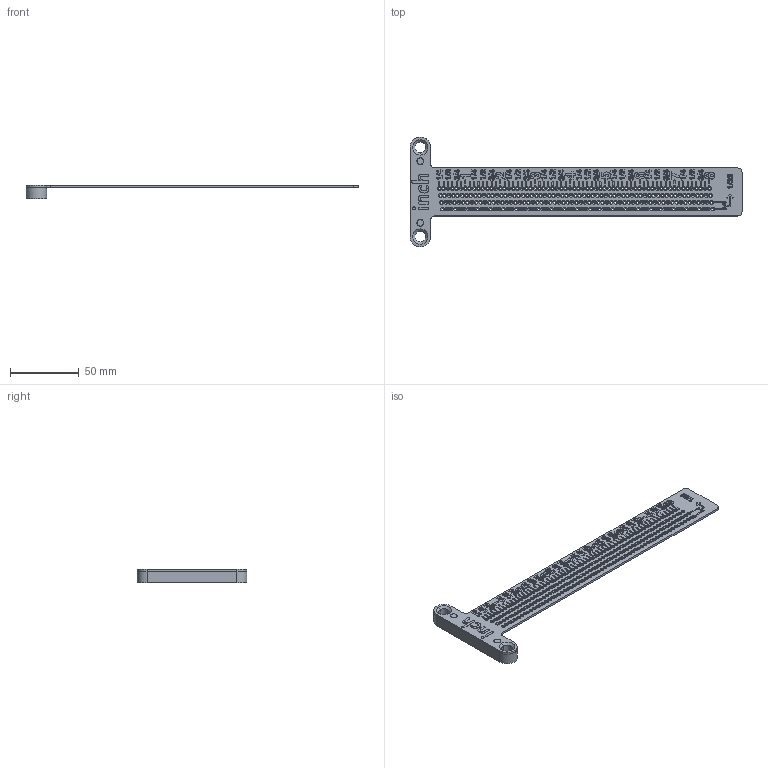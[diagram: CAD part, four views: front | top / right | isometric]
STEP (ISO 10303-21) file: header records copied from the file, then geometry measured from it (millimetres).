
FILE_DESCRIPTION((''),'2;1');
FILE_NAME('MARKING_GAUGE_IMPERIAL','2021-02-22T12:49:19',('jhaag'),(''),'CREO PARAMETRIC BY PTC INC, 2020053','CREO PARAMETRIC BY PTC INC, 2020053','');
FILE_SCHEMA(('CONFIG_CONTROL_DESIGN'));
Products named in the file (1): MARKING_GAUGE_IMPERIAL
Bounding box: 242 x 80 x 10.2 mm (x, y, z)
Volume: 22222 mm3; surface area: 24093.8 mm2
Topology: 2 solids, 2 shells, 2689 faces, 7016 edges, 4508 vertices
Faces by surface type: plane 923, cylinder 664, extrusion 590, cone 512
Entity records: 85397 total; most frequent: CARTESIAN_POINT 19056, ORIENTED_EDGE 14032, DIRECTION 12466, EDGE_CURVE 7016, VECTOR 4580, VERTEX_POINT 4508, LINE 3990, AXIS2_PLACEMENT_3D 3943
